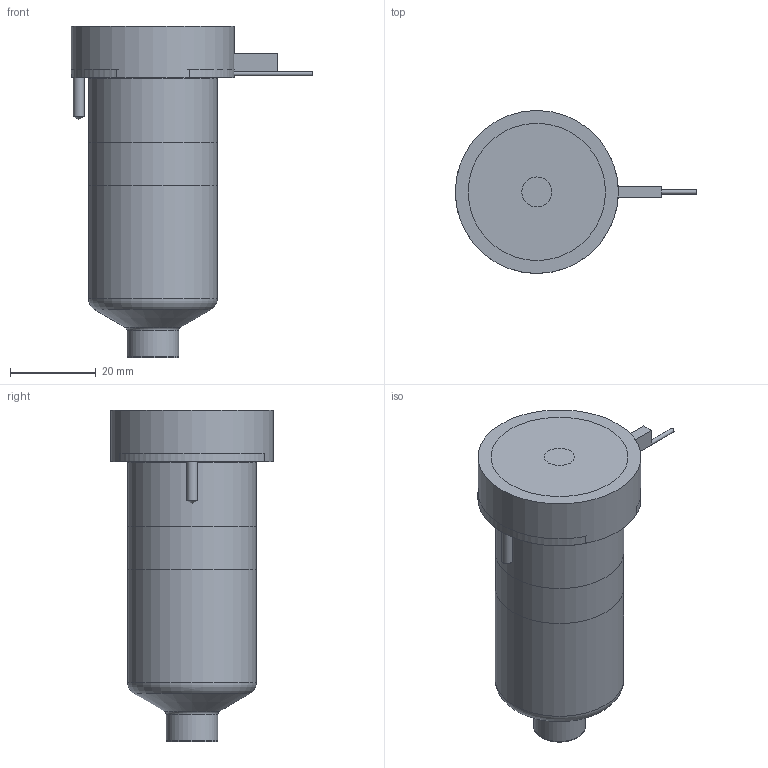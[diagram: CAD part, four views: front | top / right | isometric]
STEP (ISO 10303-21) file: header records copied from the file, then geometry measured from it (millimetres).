
FILE_DESCRIPTION(/* description */ (''),/* implementation_level */ '2;1');
FILE_NAME(/* name */ 'BXTVBE-BXIVBE-BXOVBE16065_200C_b',/* time_stamp */ '2007-01-18T10:02:41+13:00',/* author */ (''),/* organization */ (''),/* preprocessor_version */ 'ST-DEVELOPER v9',/* originating_system */ 'UGS - NX 4.0',/* authorisation */ '');
FILE_SCHEMA (('CONFIG_CONTROL_DESIGN'));
Length unit declared in the file: millimetre
Products named in the file (1): BXTVBE-BXIVBE-BXOVBE16065_200C_b
Bounding box: 56.25 x 38 x 77.17 mm (x, y, z)
Volume: 101867.3 mm3; surface area: 20754.9 mm2
Topology: 6 solids, 6 shells, 75 faces, 149 edges, 96 vertices
Faces by surface type: plane 35, cylinder 23, cone 9, torus 7, bspline 1
Full cylindrical faces by diameter (mm): 1 x3, 2.5 x3, 7 x1, 11.61 x1, 12.01 x2, 14.8 x1, 25.4 x1, 30 x2, 38 x1
Entity records: 1872 total; most frequent: CARTESIAN_POINT 371, DIRECTION 314, ORIENTED_EDGE 222, AXIS2_PLACEMENT_3D 138, EDGE_LOOP 114, EDGE_CURVE 111, VERTEX_POINT 88, ADVANCED_FACE 75
